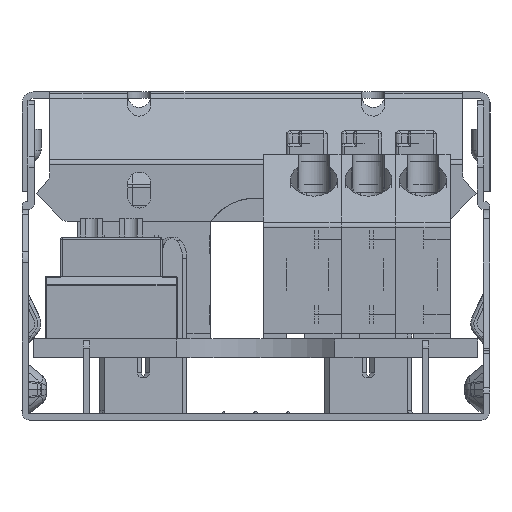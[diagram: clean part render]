
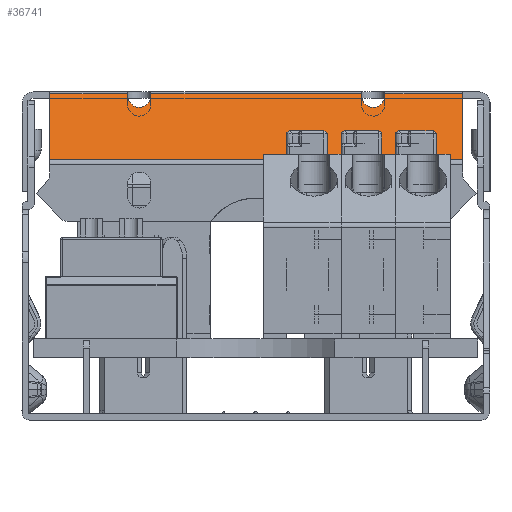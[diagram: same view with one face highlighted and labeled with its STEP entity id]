
A CAD part, left-side view. The second image highlights one B-rep face of the part: STEP entity #36741.
In plain terms, the highlighted planar face has unit normal (-0.707, 0, 0.707).
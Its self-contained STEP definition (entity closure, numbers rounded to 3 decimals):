
#33046=DIRECTION('',(0.707,0.,0.707));
#33047=VECTOR('',#33046,6.);
#33048=CARTESIAN_POINT('',(-281.636,-2111.521,
-4.36));
#33049=LINE('',#33048,#33047);
#33071=DIRECTION('',(0.,-1.,0.));
#33072=VECTOR('',#33071,5.);
#33073=CARTESIAN_POINT('',(-277.394,-2111.521,
-0.117));
#33074=LINE('',#33073,#33072);
#33079=CARTESIAN_POINT('',(-278.261,-2117.271,
-0.984));
#33080=CARTESIAN_POINT('',(-278.261,-2117.12,
-0.984));
#33081=CARTESIAN_POINT('',(-278.191,-2116.917,
-0.914));
#33082=CARTESIAN_POINT('',(-277.966,-2116.631,
-0.689));
#33083=CARTESIAN_POINT('',(-277.724,-2116.521,
-0.448));
#33084=CARTESIAN_POINT('',(-277.511,-2116.521,
-0.234));
#33086=CARTESIAN_POINT('',(-277.511,-2118.021,
-0.234));
#33087=CARTESIAN_POINT('',(-277.724,-2118.021,
-0.448));
#33088=CARTESIAN_POINT('',(-277.966,-2117.91,
-0.689));
#33089=CARTESIAN_POINT('',(-278.191,-2117.624,
-0.914));
#33090=CARTESIAN_POINT('',(-278.261,-2117.421,
-0.984));
#33091=CARTESIAN_POINT('',(-278.261,-2117.271,
-0.984));
#33098=DIRECTION('',(0.707,0.,0.707));
#33099=VECTOR('',#33098,0.166);
#33100=CARTESIAN_POINT('',(-277.511,-2118.021,
-0.234));
#33101=LINE('',#33100,#33099);
#33110=DIRECTION('',(0.,-1.,0.));
#33111=VECTOR('',#33110,13.5);
#33112=CARTESIAN_POINT('',(-277.394,-2118.021,
-0.117));
#33113=LINE('',#33112,#33111);
#33114=DIRECTION('',(-0.707,0.,-0.707));
#33115=VECTOR('',#33114,0.166);
#33116=CARTESIAN_POINT('',(-277.394,-2131.521,
-0.117));
#33117=LINE('',#33116,#33115);
#33135=CARTESIAN_POINT('',(-277.511,-2131.521,
-0.234));
#33136=CARTESIAN_POINT('',(-277.724,-2131.521,
-0.448));
#33137=CARTESIAN_POINT('',(-277.966,-2131.631,
-0.689));
#33138=CARTESIAN_POINT('',(-278.191,-2131.917,
-0.914));
#33139=CARTESIAN_POINT('',(-278.261,-2132.12,
-0.984));
#33140=CARTESIAN_POINT('',(-278.261,-2132.271,
-0.984));
#33164=CARTESIAN_POINT('',(-278.261,-2132.271,
-0.984));
#33165=CARTESIAN_POINT('',(-278.261,-2132.421,
-0.984));
#33166=CARTESIAN_POINT('',(-278.191,-2132.624,
-0.914));
#33167=CARTESIAN_POINT('',(-277.966,-2132.91,
-0.689));
#33168=CARTESIAN_POINT('',(-277.724,-2133.021,
-0.448));
#33169=CARTESIAN_POINT('',(-277.511,-2133.021,
-0.234));
#33407=DIRECTION('',(0.,1.,0.));
#33408=VECTOR('',#33407,26.5);
#33409=CARTESIAN_POINT('',(-281.636,-2138.021,
-4.36));
#33410=LINE('',#33409,#33408);
#33429=DIRECTION('',(-0.707,0.,-0.707));
#33430=VECTOR('',#33429,6.);
#33431=CARTESIAN_POINT('',(-277.394,-2138.021,
-0.117));
#33432=LINE('',#33431,#33430);
#33437=DIRECTION('',(0.,-1.,0.));
#33438=VECTOR('',#33437,5.);
#33439=CARTESIAN_POINT('',(-277.394,-2133.021,
-0.117));
#33440=LINE('',#33439,#33438);
#33446=DIRECTION('',(0.707,0.,0.707));
#33447=VECTOR('',#33446,0.166);
#33448=CARTESIAN_POINT('',(-277.511,-2133.021,
-0.234));
#33449=LINE('',#33448,#33447);
#33570=DIRECTION('',(-0.707,0.,-0.707));
#33571=VECTOR('',#33570,0.166);
#33572=CARTESIAN_POINT('',(-277.394,-2116.521,
-0.117));
#33573=LINE('',#33572,#33571);
#35478=CARTESIAN_POINT('',(-277.394,-2138.021,
-0.117));
#35479=VERTEX_POINT('',#35478);
#35480=CARTESIAN_POINT('',(-281.636,-2138.021,
-4.36));
#35481=VERTEX_POINT('',#35480);
#35594=CARTESIAN_POINT('',(-281.636,-2111.521,
-4.36));
#35595=VERTEX_POINT('',#35594);
#35596=CARTESIAN_POINT('',(-277.511,-2118.021,
-0.234));
#35597=CARTESIAN_POINT('',(-277.394,-2118.021,
-0.117));
#35598=VERTEX_POINT('',#35596);
#35599=VERTEX_POINT('',#35597);
#35600=VERTEX_POINT('',#33079);
#35601=VERTEX_POINT('',#33084);
#35602=CARTESIAN_POINT('',(-277.394,-2116.521,
-0.117));
#35603=VERTEX_POINT('',#35602);
#35604=CARTESIAN_POINT('',(-277.394,-2111.521,
-0.117));
#35605=VERTEX_POINT('',#35604);
#35606=CARTESIAN_POINT('',(-277.394,-2133.021,
-0.117));
#35607=VERTEX_POINT('',#35606);
#35608=CARTESIAN_POINT('',(-277.511,-2133.021,
-0.234));
#35609=VERTEX_POINT('',#35608);
#35610=VERTEX_POINT('',#33164);
#35611=VERTEX_POINT('',#33135);
#35612=CARTESIAN_POINT('',(-277.394,-2131.521,
-0.117));
#35613=VERTEX_POINT('',#35612);
#36708=CARTESIAN_POINT('',(-281.636,-2011.261,
-4.36));
#36709=DIRECTION('',(0.707,0.,-0.707));
#36710=DIRECTION('',(-0.707,0.,-0.707));
#36711=AXIS2_PLACEMENT_3D('',#36708,#36709,#36710);
#36712=PLANE('',#36711);
#36714=ORIENTED_EDGE('',*,*,#36713,.T.);
#36716=ORIENTED_EDGE('',*,*,#36715,.T.);
#36718=ORIENTED_EDGE('',*,*,#36717,.T.);
#36720=ORIENTED_EDGE('',*,*,#36719,.T.);
#36722=ORIENTED_EDGE('',*,*,#36721,.T.);
#36724=ORIENTED_EDGE('',*,*,#36723,.T.);
#36726=ORIENTED_EDGE('',*,*,#36725,.T.);
#36728=ORIENTED_EDGE('',*,*,#36727,.T.);
#36730=ORIENTED_EDGE('',*,*,#36729,.T.);
#36731=ORIENTED_EDGE('',*,*,#36678,.T.);
#36732=ORIENTED_EDGE('',*,*,#36699,.T.);
#36734=ORIENTED_EDGE('',*,*,#36733,.T.);
#36736=ORIENTED_EDGE('',*,*,#36735,.F.);
#36738=ORIENTED_EDGE('',*,*,#36737,.F.);
#36739=EDGE_LOOP('',(#36714,#36716,#36718,#36720,#36722,#36724,#36726,#36728,
#36730,#36731,#36732,#36734,#36736,#36738));
#36740=FACE_OUTER_BOUND('',#36739,.F.);
#33085=B_SPLINE_CURVE_WITH_KNOTS('',3,(#33079,#33080,#33081,#33082,#33083,
#33084),.UNSPECIFIED.,.F.,.F.,(4,1,1,4),(0.,0.25,0.5,1.),.UNSPECIFIED.);
#33092=B_SPLINE_CURVE_WITH_KNOTS('',3,(#33086,#33087,#33088,#33089,#33090,
#33091),.UNSPECIFIED.,.F.,.F.,(4,1,1,4),(0.,0.5,0.75,1.),.UNSPECIFIED.);
#33141=B_SPLINE_CURVE_WITH_KNOTS('',3,(#33135,#33136,#33137,#33138,#33139,
#33140),.UNSPECIFIED.,.F.,.F.,(4,1,1,4),(0.,0.5,0.75,1.),.UNSPECIFIED.);
#33170=B_SPLINE_CURVE_WITH_KNOTS('',3,(#33164,#33165,#33166,#33167,#33168,
#33169),.UNSPECIFIED.,.F.,.F.,(4,1,1,4),(0.,0.25,0.5,1.),.UNSPECIFIED.);
#36678=EDGE_CURVE('',#35595,#35605,#33049,.T.);
#36699=EDGE_CURVE('',#35605,#35603,#33074,.T.);
#36713=EDGE_CURVE('',#35598,#35599,#33101,.T.);
#36715=EDGE_CURVE('',#35599,#35613,#33113,.T.);
#36717=EDGE_CURVE('',#35613,#35611,#33117,.T.);
#36719=EDGE_CURVE('',#35611,#35610,#33141,.T.);
#36721=EDGE_CURVE('',#35610,#35609,#33170,.T.);
#36723=EDGE_CURVE('',#35609,#35607,#33449,.T.);
#36725=EDGE_CURVE('',#35607,#35479,#33440,.T.);
#36727=EDGE_CURVE('',#35479,#35481,#33432,.T.);
#36729=EDGE_CURVE('',#35481,#35595,#33410,.T.);
#36733=EDGE_CURVE('',#35603,#35601,#33573,.T.);
#36735=EDGE_CURVE('',#35600,#35601,#33085,.T.);
#36737=EDGE_CURVE('',#35598,#35600,#33092,.T.);
#36741=ADVANCED_FACE('',(#36740),#36712,.F.);
